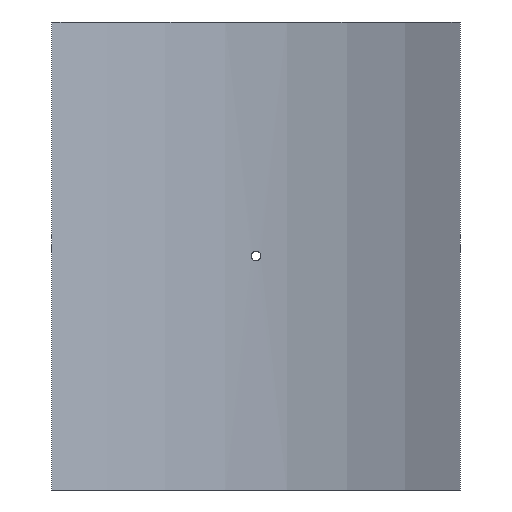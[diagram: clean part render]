
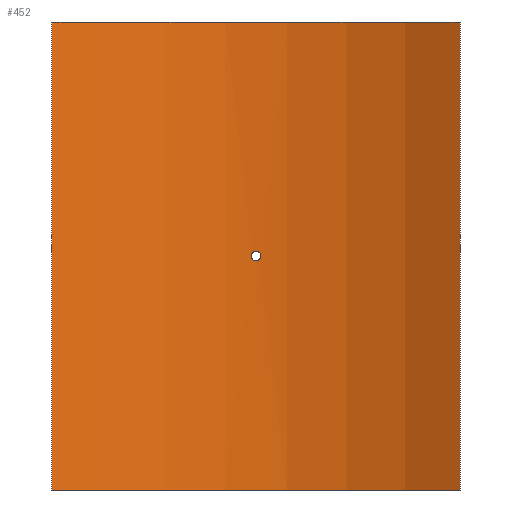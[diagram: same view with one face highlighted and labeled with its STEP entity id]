
A CAD part, front view. The second image highlights one B-rep face of the part: STEP entity #452.
In plain terms, the highlighted cylindrical face has radius 400 mm (diameter 800 mm), a partial arc.
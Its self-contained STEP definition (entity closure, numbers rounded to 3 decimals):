
#19=B_SPLINE_CURVE_WITH_KNOTS('',3,(#788,#789,#790,#791,#792,#793,#794,
#795,#796,#797,#798,#799,#800,#801,#802,#803,#804,#805,#806,#807,#808,#809,
#810,#811,#812,#813,#814,#815,#816,#817,#818,#819,#820,#821),
 .UNSPECIFIED.,.T.,.F.,(4,2,2,2,2,2,2,2,2,2,2,2,2,2,2,2,4),(0.,0.181,
0.362,0.542,0.723,0.904,1.085,
1.266,1.446,1.627,1.808,1.989,
2.17,2.351,2.531,2.712,2.893),
 .UNSPECIFIED.);
#43=LINE('',#1065,#62);
#44=LINE('',#1068,#63);
#62=VECTOR('',#661,10.);
#63=VECTOR('',#664,10.);
#76=CYLINDRICAL_SURFACE('',#530,400.);
#88=FACE_BOUND('',#167,.T.);
#127=FACE_OUTER_BOUND('',#166,.T.);
#166=EDGE_LOOP('',(#405,#406,#407,#408));
#167=EDGE_LOOP('',(#409));
#201=CIRCLE('',#529,400.);
#202=CIRCLE('',#531,400.);
#219=VERTEX_POINT('',#786);
#242=VERTEX_POINT('',#1058);
#243=VERTEX_POINT('',#1060);
#244=VERTEX_POINT('',#1064);
#245=VERTEX_POINT('',#1066);
#267=EDGE_CURVE('',#219,#219,#19,.T.);
#299=EDGE_CURVE('',#242,#243,#201,.T.);
#301=EDGE_CURVE('',#244,#242,#43,.T.);
#302=EDGE_CURVE('',#245,#244,#202,.T.);
#303=EDGE_CURVE('',#245,#243,#44,.T.);
#405=ORIENTED_EDGE('',*,*,#301,.F.);
#406=ORIENTED_EDGE('',*,*,#302,.F.);
#407=ORIENTED_EDGE('',*,*,#303,.T.);
#408=ORIENTED_EDGE('',*,*,#299,.F.);
#409=ORIENTED_EDGE('',*,*,#267,.T.);
#452=ADVANCED_FACE('',(#127,#88),#76,.F.);
#529=AXIS2_PLACEMENT_3D('',#1061,#656,#657);
#530=AXIS2_PLACEMENT_3D('',#1063,#659,#660);
#531=AXIS2_PLACEMENT_3D('',#1067,#662,#663);
#656=DIRECTION('center_axis',(0.,0.,1.));
#657=DIRECTION('ref_axis',(0.512,0.859,0.));
#659=DIRECTION('center_axis',(0.,0.,1.));
#660=DIRECTION('ref_axis',(0.512,0.859,0.));
#661=DIRECTION('',(0.,0.,-1.));
#662=DIRECTION('center_axis',(0.,0.,-1.));
#663=DIRECTION('ref_axis',(0.512,0.859,0.));
#664=DIRECTION('',(0.,0.,-1.));
#786=CARTESIAN_POINT('',(4.8,399.971,0.));
#788=CARTESIAN_POINT('Ctrl Pts',(4.8,399.971,0.));
#789=CARTESIAN_POINT('Ctrl Pts',(4.8,399.971,-0.603));
#790=CARTESIAN_POINT('Ctrl Pts',(4.68,399.973,-1.246));
#791=CARTESIAN_POINT('Ctrl Pts',(4.19,399.978,-2.428));
#792=CARTESIAN_POINT('Ctrl Pts',(3.82,399.982,-2.968));
#793=CARTESIAN_POINT('Ctrl Pts',(2.968,399.989,-3.82));
#794=CARTESIAN_POINT('Ctrl Pts',(2.428,399.993,-4.19));
#795=CARTESIAN_POINT('Ctrl Pts',(1.246,399.998,-4.68));
#796=CARTESIAN_POINT('Ctrl Pts',(0.603,400.,-4.8));
#797=CARTESIAN_POINT('Ctrl Pts',(-0.603,400.,-4.8));
#798=CARTESIAN_POINT('Ctrl Pts',(-1.246,399.998,-4.68));
#799=CARTESIAN_POINT('Ctrl Pts',(-2.428,399.993,-4.19));
#800=CARTESIAN_POINT('Ctrl Pts',(-2.968,399.989,-3.82));
#801=CARTESIAN_POINT('Ctrl Pts',(-3.82,399.982,-2.968));
#802=CARTESIAN_POINT('Ctrl Pts',(-4.19,399.978,-2.428));
#803=CARTESIAN_POINT('Ctrl Pts',(-4.68,399.973,-1.246));
#804=CARTESIAN_POINT('Ctrl Pts',(-4.8,399.971,-0.603));
#805=CARTESIAN_POINT('Ctrl Pts',(-4.8,399.971,0.603));
#806=CARTESIAN_POINT('Ctrl Pts',(-4.68,399.973,1.246));
#807=CARTESIAN_POINT('Ctrl Pts',(-4.19,399.978,2.428));
#808=CARTESIAN_POINT('Ctrl Pts',(-3.82,399.982,2.968));
#809=CARTESIAN_POINT('Ctrl Pts',(-2.968,399.989,3.82));
#810=CARTESIAN_POINT('Ctrl Pts',(-2.428,399.993,4.19));
#811=CARTESIAN_POINT('Ctrl Pts',(-1.246,399.998,4.68));
#812=CARTESIAN_POINT('Ctrl Pts',(-0.603,400.,4.8));
#813=CARTESIAN_POINT('Ctrl Pts',(0.603,400.,4.8));
#814=CARTESIAN_POINT('Ctrl Pts',(1.246,399.998,4.68));
#815=CARTESIAN_POINT('Ctrl Pts',(2.428,399.993,4.19));
#816=CARTESIAN_POINT('Ctrl Pts',(2.968,399.989,3.82));
#817=CARTESIAN_POINT('Ctrl Pts',(3.82,399.982,2.968));
#818=CARTESIAN_POINT('Ctrl Pts',(4.19,399.978,2.428));
#819=CARTESIAN_POINT('Ctrl Pts',(4.68,399.973,1.246));
#820=CARTESIAN_POINT('Ctrl Pts',(4.8,399.971,0.603));
#821=CARTESIAN_POINT('Ctrl Pts',(4.8,399.971,0.));
#1058=CARTESIAN_POINT('',(205.,343.475,-235.));
#1060=CARTESIAN_POINT('',(-205.,343.475,-235.));
#1061=CARTESIAN_POINT('Origin',(0.,0.,
-235.));
#1063=CARTESIAN_POINT('Origin',(0.,0.,
0.));
#1064=CARTESIAN_POINT('',(205.,343.475,235.));
#1065=CARTESIAN_POINT('',(205.,343.475,0.));
#1066=CARTESIAN_POINT('',(-205.,343.475,235.));
#1067=CARTESIAN_POINT('Origin',(0.,0.,
235.));
#1068=CARTESIAN_POINT('',(-205.,343.475,0.));
